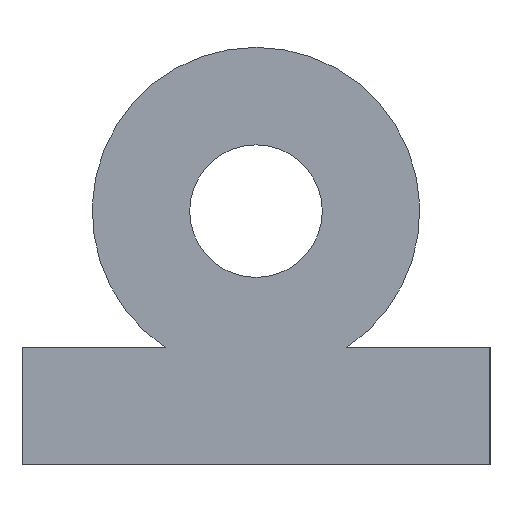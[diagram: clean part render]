
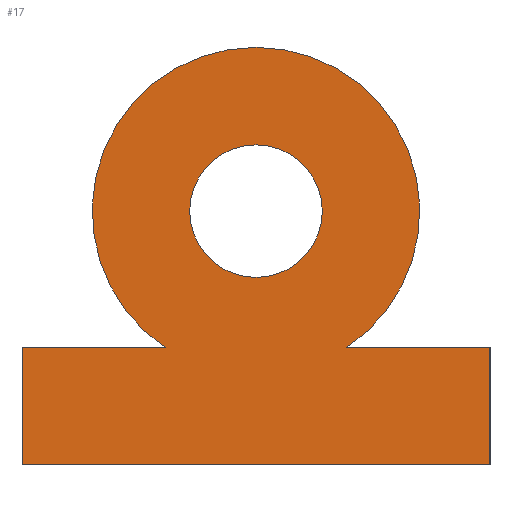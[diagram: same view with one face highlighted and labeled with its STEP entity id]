
A CAD part, left-side view. The second image highlights one B-rep face of the part: STEP entity #17.
In plain terms, the highlighted planar face has unit normal (-1, 0, 0).
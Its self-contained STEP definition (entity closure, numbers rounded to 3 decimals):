
#17 = ADVANCED_FACE('',(#18,#198),#32,.F.);
#18 = FACE_BOUND('',#19,.F.);
#19 = EDGE_LOOP('',(#20,#55,#83,#111,#139,#167));
#20 = ORIENTED_EDGE('',*,*,#21,.F.);
#21 = EDGE_CURVE('',#22,#24,#26,.T.);
#22 = VERTEX_POINT('',#23);
#23 = CARTESIAN_POINT('',(-8.,-6.,3.));
#24 = VERTEX_POINT('',#25);
#25 = CARTESIAN_POINT('',(-8.,-2.322,3.));
#26 = SURFACE_CURVE('',#27,(#31,#43),.PCURVE_S1.);
#27 = LINE('',#28,#29);
#28 = CARTESIAN_POINT('',(-8.,-6.,3.));
#29 = VECTOR('',#30,1.);
#30 = DIRECTION('',(0.,1.,0.));
#31 = PCURVE('',#32,#37);
#32 = PLANE('',#33);
#33 = AXIS2_PLACEMENT_3D('',#34,#35,#36);
#34 = CARTESIAN_POINT('',(-8.,-6.,0.));
#35 = DIRECTION('',(1.,0.,0.));
#36 = DIRECTION('',(0.,0.,1.));
#37 = DEFINITIONAL_REPRESENTATION('',(#38),#42);
#38 = LINE('',#39,#40);
#39 = CARTESIAN_POINT('',(3.,0.));
#40 = VECTOR('',#41,1.);
#41 = DIRECTION('',(0.,-1.));
#42 = ( GEOMETRIC_REPRESENTATION_CONTEXT(2) 
PARAMETRIC_REPRESENTATION_CONTEXT() REPRESENTATION_CONTEXT('2D SPACE',''
  ) );
#43 = PCURVE('',#44,#49);
#44 = PLANE('',#45);
#45 = AXIS2_PLACEMENT_3D('',#46,#47,#48);
#46 = CARTESIAN_POINT('',(-8.,-6.,3.));
#47 = DIRECTION('',(0.,0.,1.));
#48 = DIRECTION('',(1.,0.,0.));
#49 = DEFINITIONAL_REPRESENTATION('',(#50),#54);
#50 = LINE('',#51,#52);
#51 = CARTESIAN_POINT('',(0.,0.));
#52 = VECTOR('',#53,1.);
#53 = DIRECTION('',(0.,1.));
#54 = ( GEOMETRIC_REPRESENTATION_CONTEXT(2) 
PARAMETRIC_REPRESENTATION_CONTEXT() REPRESENTATION_CONTEXT('2D SPACE',''
  ) );
#55 = ORIENTED_EDGE('',*,*,#56,.F.);
#56 = EDGE_CURVE('',#57,#22,#59,.T.);
#57 = VERTEX_POINT('',#58);
#58 = CARTESIAN_POINT('',(-8.,-6.,0.));
#59 = SURFACE_CURVE('',#60,(#64,#71),.PCURVE_S1.);
#60 = LINE('',#61,#62);
#61 = CARTESIAN_POINT('',(-8.,-6.,0.));
#62 = VECTOR('',#63,1.);
#63 = DIRECTION('',(0.,0.,1.));
#64 = PCURVE('',#32,#65);
#65 = DEFINITIONAL_REPRESENTATION('',(#66),#70);
#66 = LINE('',#67,#68);
#67 = CARTESIAN_POINT('',(0.,0.));
#68 = VECTOR('',#69,1.);
#69 = DIRECTION('',(1.,0.));
#70 = ( GEOMETRIC_REPRESENTATION_CONTEXT(2) 
PARAMETRIC_REPRESENTATION_CONTEXT() REPRESENTATION_CONTEXT('2D SPACE',''
  ) );
#71 = PCURVE('',#72,#77);
#72 = PLANE('',#73);
#73 = AXIS2_PLACEMENT_3D('',#74,#75,#76);
#74 = CARTESIAN_POINT('',(-8.,-6.,0.));
#75 = DIRECTION('',(0.,1.,0.));
#76 = DIRECTION('',(0.,0.,1.));
#77 = DEFINITIONAL_REPRESENTATION('',(#78),#82);
#78 = LINE('',#79,#80);
#79 = CARTESIAN_POINT('',(0.,0.));
#80 = VECTOR('',#81,1.);
#81 = DIRECTION('',(1.,0.));
#82 = ( GEOMETRIC_REPRESENTATION_CONTEXT(2) 
PARAMETRIC_REPRESENTATION_CONTEXT() REPRESENTATION_CONTEXT('2D SPACE',''
  ) );
#83 = ORIENTED_EDGE('',*,*,#84,.T.);
#84 = EDGE_CURVE('',#57,#85,#87,.T.);
#85 = VERTEX_POINT('',#86);
#86 = CARTESIAN_POINT('',(-8.,6.,0.));
#87 = SURFACE_CURVE('',#88,(#92,#99),.PCURVE_S1.);
#88 = LINE('',#89,#90);
#89 = CARTESIAN_POINT('',(-8.,-6.,0.));
#90 = VECTOR('',#91,1.);
#91 = DIRECTION('',(0.,1.,0.));
#92 = PCURVE('',#32,#93);
#93 = DEFINITIONAL_REPRESENTATION('',(#94),#98);
#94 = LINE('',#95,#96);
#95 = CARTESIAN_POINT('',(0.,0.));
#96 = VECTOR('',#97,1.);
#97 = DIRECTION('',(0.,-1.));
#98 = ( GEOMETRIC_REPRESENTATION_CONTEXT(2) 
PARAMETRIC_REPRESENTATION_CONTEXT() REPRESENTATION_CONTEXT('2D SPACE',''
  ) );
#99 = PCURVE('',#100,#105);
#100 = PLANE('',#101);
#101 = AXIS2_PLACEMENT_3D('',#102,#103,#104);
#102 = CARTESIAN_POINT('',(-8.,-6.,0.));
#103 = DIRECTION('',(0.,0.,1.));
#104 = DIRECTION('',(1.,0.,0.));
#105 = DEFINITIONAL_REPRESENTATION('',(#106),#110);
#106 = LINE('',#107,#108);
#107 = CARTESIAN_POINT('',(0.,0.));
#108 = VECTOR('',#109,1.);
#109 = DIRECTION('',(0.,1.));
#110 = ( GEOMETRIC_REPRESENTATION_CONTEXT(2) 
PARAMETRIC_REPRESENTATION_CONTEXT() REPRESENTATION_CONTEXT('2D SPACE',''
  ) );
#111 = ORIENTED_EDGE('',*,*,#112,.T.);
#112 = EDGE_CURVE('',#85,#113,#115,.T.);
#113 = VERTEX_POINT('',#114);
#114 = CARTESIAN_POINT('',(-8.,6.,3.));
#115 = SURFACE_CURVE('',#116,(#120,#127),.PCURVE_S1.);
#116 = LINE('',#117,#118);
#117 = CARTESIAN_POINT('',(-8.,6.,0.));
#118 = VECTOR('',#119,1.);
#119 = DIRECTION('',(0.,0.,1.));
#120 = PCURVE('',#32,#121);
#121 = DEFINITIONAL_REPRESENTATION('',(#122),#126);
#122 = LINE('',#123,#124);
#123 = CARTESIAN_POINT('',(0.,-12.));
#124 = VECTOR('',#125,1.);
#125 = DIRECTION('',(1.,0.));
#126 = ( GEOMETRIC_REPRESENTATION_CONTEXT(2) 
PARAMETRIC_REPRESENTATION_CONTEXT() REPRESENTATION_CONTEXT('2D SPACE',''
  ) );
#127 = PCURVE('',#128,#133);
#128 = PLANE('',#129);
#129 = AXIS2_PLACEMENT_3D('',#130,#131,#132);
#130 = CARTESIAN_POINT('',(-8.,6.,0.));
#131 = DIRECTION('',(0.,1.,0.));
#132 = DIRECTION('',(0.,0.,1.));
#133 = DEFINITIONAL_REPRESENTATION('',(#134),#138);
#134 = LINE('',#135,#136);
#135 = CARTESIAN_POINT('',(0.,0.));
#136 = VECTOR('',#137,1.);
#137 = DIRECTION('',(1.,0.));
#138 = ( GEOMETRIC_REPRESENTATION_CONTEXT(2) 
PARAMETRIC_REPRESENTATION_CONTEXT() REPRESENTATION_CONTEXT('2D SPACE',''
  ) );
#139 = ORIENTED_EDGE('',*,*,#140,.F.);
#140 = EDGE_CURVE('',#141,#113,#143,.T.);
#141 = VERTEX_POINT('',#142);
#142 = CARTESIAN_POINT('',(-8.,2.322,3.));
#143 = SURFACE_CURVE('',#144,(#148,#155),.PCURVE_S1.);
#144 = LINE('',#145,#146);
#145 = CARTESIAN_POINT('',(-8.,-6.,3.));
#146 = VECTOR('',#147,1.);
#147 = DIRECTION('',(0.,1.,0.));
#148 = PCURVE('',#32,#149);
#149 = DEFINITIONAL_REPRESENTATION('',(#150),#154);
#150 = LINE('',#151,#152);
#151 = CARTESIAN_POINT('',(3.,0.));
#152 = VECTOR('',#153,1.);
#153 = DIRECTION('',(0.,-1.));
#154 = ( GEOMETRIC_REPRESENTATION_CONTEXT(2) 
PARAMETRIC_REPRESENTATION_CONTEXT() REPRESENTATION_CONTEXT('2D SPACE',''
  ) );
#155 = PCURVE('',#156,#161);
#156 = PLANE('',#157);
#157 = AXIS2_PLACEMENT_3D('',#158,#159,#160);
#158 = CARTESIAN_POINT('',(-8.,-6.,3.));
#159 = DIRECTION('',(0.,0.,1.));
#160 = DIRECTION('',(1.,0.,0.));
#161 = DEFINITIONAL_REPRESENTATION('',(#162),#166);
#162 = LINE('',#163,#164);
#163 = CARTESIAN_POINT('',(0.,0.));
#164 = VECTOR('',#165,1.);
#165 = DIRECTION('',(0.,1.));
#166 = ( GEOMETRIC_REPRESENTATION_CONTEXT(2) 
PARAMETRIC_REPRESENTATION_CONTEXT() REPRESENTATION_CONTEXT('2D SPACE',''
  ) );
#167 = ORIENTED_EDGE('',*,*,#168,.F.);
#168 = EDGE_CURVE('',#24,#141,#169,.T.);
#169 = SURFACE_CURVE('',#170,(#175,#186),.PCURVE_S1.);
#170 = CIRCLE('',#171,4.2);
#171 = AXIS2_PLACEMENT_3D('',#172,#173,#174);
#172 = CARTESIAN_POINT('',(-8.,0.,6.5));
#173 = DIRECTION('',(-1.,-0.,0.));
#174 = DIRECTION('',(0.,-0.553,-0.833));
#175 = PCURVE('',#32,#176);
#176 = DEFINITIONAL_REPRESENTATION('',(#177),#185);
#177 = ( BOUNDED_CURVE() B_SPLINE_CURVE(2,(#178,#179,#180,#181,#182,#183
,#184),.UNSPECIFIED.,.T.,.F.) B_SPLINE_CURVE_WITH_KNOTS((1,2,2,2,2,1),(
    -2.094,0.,2.094,4.189,6.283,
8.378),.UNSPECIFIED.) CURVE() GEOMETRIC_REPRESENTATION_ITEM() 
RATIONAL_B_SPLINE_CURVE((1.,0.5,1.,0.5,1.,0.5,1.)) REPRESENTATION_ITEM(
  '') );
#178 = CARTESIAN_POINT('',(3.,-3.678));
#179 = CARTESIAN_POINT('',(7.021,2.384));
#180 = CARTESIAN_POINT('',(10.261,-4.13));
#181 = CARTESIAN_POINT('',(13.5,-10.643));
#182 = CARTESIAN_POINT('',(6.239,-10.192));
#183 = CARTESIAN_POINT('',(-1.021,-9.741));
#184 = CARTESIAN_POINT('',(3.,-3.678));
#185 = ( GEOMETRIC_REPRESENTATION_CONTEXT(2) 
PARAMETRIC_REPRESENTATION_CONTEXT() REPRESENTATION_CONTEXT('2D SPACE',''
  ) );
#186 = PCURVE('',#187,#192);
#187 = CYLINDRICAL_SURFACE('',#188,4.2);
#188 = AXIS2_PLACEMENT_3D('',#189,#190,#191);
#189 = CARTESIAN_POINT('',(-8.,0.,6.5));
#190 = DIRECTION('',(-1.,-0.,-0.));
#191 = DIRECTION('',(0.,1.,0.));
#192 = DEFINITIONAL_REPRESENTATION('',(#193),#197);
#193 = LINE('',#194,#195);
#194 = CARTESIAN_POINT('',(-10.41,0.));
#195 = VECTOR('',#196,1.);
#196 = DIRECTION('',(1.,-0.));
#197 = ( GEOMETRIC_REPRESENTATION_CONTEXT(2) 
PARAMETRIC_REPRESENTATION_CONTEXT() REPRESENTATION_CONTEXT('2D SPACE',''
  ) );
#198 = FACE_BOUND('',#199,.F.);
#199 = EDGE_LOOP('',(#200));
#200 = ORIENTED_EDGE('',*,*,#201,.T.);
#201 = EDGE_CURVE('',#202,#202,#204,.T.);
#202 = VERTEX_POINT('',#203);
#203 = CARTESIAN_POINT('',(-8.,1.7,6.5));
#204 = SURFACE_CURVE('',#205,(#210,#221),.PCURVE_S1.);
#205 = CIRCLE('',#206,1.7);
#206 = AXIS2_PLACEMENT_3D('',#207,#208,#209);
#207 = CARTESIAN_POINT('',(-8.,0.,6.5));
#208 = DIRECTION('',(-1.,0.,0.));
#209 = DIRECTION('',(0.,1.,0.));
#210 = PCURVE('',#32,#211);
#211 = DEFINITIONAL_REPRESENTATION('',(#212),#220);
#212 = ( BOUNDED_CURVE() B_SPLINE_CURVE(2,(#213,#214,#215,#216,#217,#218
,#219),.UNSPECIFIED.,.T.,.F.) B_SPLINE_CURVE_WITH_KNOTS((1,2,2,2,2,1),(
    -2.094,0.,2.094,4.189,6.283,
8.378),.UNSPECIFIED.) CURVE() GEOMETRIC_REPRESENTATION_ITEM() 
RATIONAL_B_SPLINE_CURVE((1.,0.5,1.,0.5,1.,0.5,1.)) REPRESENTATION_ITEM(
  '') );
#213 = CARTESIAN_POINT('',(6.5,-7.7));
#214 = CARTESIAN_POINT('',(3.556,-7.7));
#215 = CARTESIAN_POINT('',(5.028,-5.15));
#216 = CARTESIAN_POINT('',(6.5,-2.6));
#217 = CARTESIAN_POINT('',(7.972,-5.15));
#218 = CARTESIAN_POINT('',(9.444,-7.7));
#219 = CARTESIAN_POINT('',(6.5,-7.7));
#220 = ( GEOMETRIC_REPRESENTATION_CONTEXT(2) 
PARAMETRIC_REPRESENTATION_CONTEXT() REPRESENTATION_CONTEXT('2D SPACE',''
  ) );
#221 = PCURVE('',#222,#227);
#222 = CYLINDRICAL_SURFACE('',#223,1.7);
#223 = AXIS2_PLACEMENT_3D('',#224,#225,#226);
#224 = CARTESIAN_POINT('',(-10.,0.,6.5));
#225 = DIRECTION('',(-1.,-0.,-0.));
#226 = DIRECTION('',(0.,1.,0.));
#227 = DEFINITIONAL_REPRESENTATION('',(#228),#232);
#228 = LINE('',#229,#230);
#229 = CARTESIAN_POINT('',(-6.283,-2.));
#230 = VECTOR('',#231,1.);
#231 = DIRECTION('',(1.,-0.));
#232 = ( GEOMETRIC_REPRESENTATION_CONTEXT(2) 
PARAMETRIC_REPRESENTATION_CONTEXT() REPRESENTATION_CONTEXT('2D SPACE',''
  ) );
